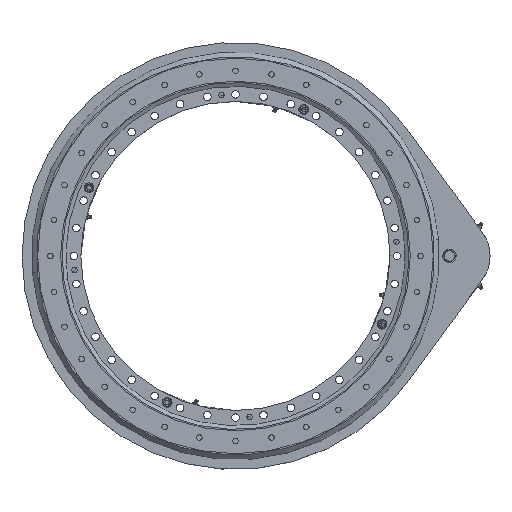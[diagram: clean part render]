
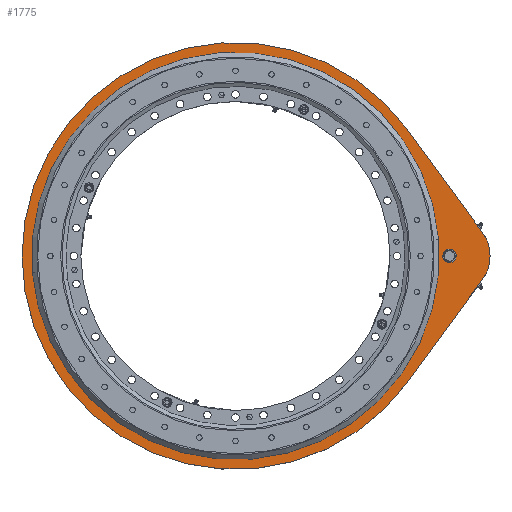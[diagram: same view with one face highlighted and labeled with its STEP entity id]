
A CAD part, top view. The second image highlights one B-rep face of the part: STEP entity #1775.
In plain terms, the highlighted planar face has unit normal (0, 0, 1).
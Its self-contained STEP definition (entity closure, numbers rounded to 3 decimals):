
#111 = DIRECTION ( 'NONE',  ( 1., 0., 0. ) ) ;
#293 = EDGE_CURVE ( 'NONE', #27408, #12091, #2461, .T. ) ;
#1008 = DIRECTION ( 'NONE',  ( -1., 0., 0. ) ) ;
#1614 = VERTEX_POINT ( 'NONE', #21198 ) ;
#1647 = EDGE_CURVE ( 'NONE', #6652, #25368, #10290, .T. ) ;
#1775 = ADVANCED_FACE ( 'NONE', ( #26782, #7114, #15846 ), #2504, .T. ) ;
#2461 = CIRCLE ( 'NONE', #16691, 373. ) ;
#2504 = PLANE ( 'NONE',  #8610 ) ;
#2748 = EDGE_CURVE ( 'NONE', #17085, #17570, #14805, .T. ) ;
#2806 = EDGE_CURVE ( 'NONE', #25368, #16297, #10714, .T. ) ;
#3073 = CIRCLE ( 'NONE', #10412, 373. ) ;
#3870 = EDGE_CURVE ( 'NONE', #12091, #27408, #3073, .T. ) ;
#4274 = CIRCLE ( 'NONE', #20305, 75. ) ;
#4479 = ORIENTED_EDGE ( 'NONE', *, *, #2806, .T. ) ;
#4496 = CIRCLE ( 'NONE', #18698, 10.5 ) ;
#4676 = DIRECTION ( 'NONE',  ( 0., 0., 1. ) ) ;
#5382 = VECTOR ( 'NONE', #21423, 1000. ) ;
#5641 = CARTESIAN_POINT ( 'NONE',  ( 330.07, 85.521, 797.5 ) ) ;
#5752 = ORIENTED_EDGE ( 'NONE', *, *, #1647, .T. ) ;
#6652 = VERTEX_POINT ( 'NONE', #23153 ) ;
#7114 = FACE_OUTER_BOUND ( 'NONE', #10948, .T. ) ;
#7665 = ORIENTED_EDGE ( 'NONE', *, *, #12495, .T. ) ;
#8090 = CARTESIAN_POINT ( 'NONE',  ( 276.262, -147.162, 797.5 ) ) ;
#8097 = DIRECTION ( 'NONE',  ( 1., 0., 0. ) ) ;
#8321 = DIRECTION ( 'NONE',  ( 0., 0., 1. ) ) ;
#8368 = CARTESIAN_POINT ( 'NONE',  ( -42.93, 85.521, 797.5 ) ) ;
#8610 = AXIS2_PLACEMENT_3D ( 'NONE', #18737, #27629, #8097 ) ;
#8651 = DIRECTION ( 'NONE',  ( 1., 0., 0. ) ) ;
#8905 = CIRCLE ( 'NONE', #12108, 10.5 ) ;
#9410 = ORIENTED_EDGE ( 'NONE', *, *, #23343, .T. ) ;
#10027 = CARTESIAN_POINT ( 'NONE',  ( 276.262, 318.204, 797.5 ) ) ;
#10290 = LINE ( 'NONE', #10027, #15809 ) ;
#10319 = DIRECTION ( 'NONE',  ( 1., 0., 0. ) ) ;
#10412 = AXIS2_PLACEMENT_3D ( 'NONE', #8368, #16710, #27628 ) ;
#10714 = CIRCLE ( 'NONE', #26794, 395. ) ;
#10948 = EDGE_LOOP ( 'NONE', ( #4479, #15897, #15802, #19115, #5752 ) ) ;
#11831 = DIRECTION ( 'NONE',  ( 1., 0., 0. ) ) ;
#12091 = VERTEX_POINT ( 'NONE', #17690 ) ;
#12108 = AXIS2_PLACEMENT_3D ( 'NONE', #16779, #27858, #28008 ) ;
#12495 = EDGE_CURVE ( 'NONE', #23423, #1614, #8905, .T. ) ;
#13841 = DIRECTION ( 'NONE',  ( 0., 0., 1. ) ) ;
#14805 = LINE ( 'NONE', #8090, #5382 ) ;
#15411 = CARTESIAN_POINT ( 'NONE',  ( 276.262, -147.162, 797.5 ) ) ;
#15447 = CARTESIAN_POINT ( 'NONE',  ( -42.93, 85.521, 797.5 ) ) ;
#15802 = ORIENTED_EDGE ( 'NONE', *, *, #2748, .T. ) ;
#15809 = VECTOR ( 'NONE', #27561, 1000. ) ;
#15846 = FACE_BOUND ( 'NONE', #26719, .T. ) ;
#15897 = ORIENTED_EDGE ( 'NONE', *, *, #15938, .T. ) ;
#15938 = EDGE_CURVE ( 'NONE', #16297, #17085, #25957, .T. ) ;
#16297 = VERTEX_POINT ( 'NONE', #23101 ) ;
#16691 = AXIS2_PLACEMENT_3D ( 'NONE', #18969, #8321, #10319 ) ;
#16710 = DIRECTION ( 'NONE',  ( 0., 0., 1. ) ) ;
#16779 = CARTESIAN_POINT ( 'NONE',  ( 353.07, 85.521, 797.5 ) ) ;
#17085 = VERTEX_POINT ( 'NONE', #15411 ) ;
#17570 = VERTEX_POINT ( 'NONE', #27325 ) ;
#17690 = CARTESIAN_POINT ( 'NONE',  ( -415.93, 85.521, 797.5 ) ) ;
#18252 = CARTESIAN_POINT ( 'NONE',  ( 276.262, 318.204, 797.5 ) ) ;
#18519 = CARTESIAN_POINT ( 'NONE',  ( 353.07, 85.521, 797.5 ) ) ;
#18698 = AXIS2_PLACEMENT_3D ( 'NONE', #18519, #22670, #1008 ) ;
#18737 = CARTESIAN_POINT ( 'NONE',  ( -42.93, 85.521, 797.5 ) ) ;
#18969 = CARTESIAN_POINT ( 'NONE',  ( -42.93, 85.521, 797.5 ) ) ;
#19082 = AXIS2_PLACEMENT_3D ( 'NONE', #15447, #4676, #111 ) ;
#19115 = ORIENTED_EDGE ( 'NONE', *, *, #24847, .T. ) ;
#20305 = AXIS2_PLACEMENT_3D ( 'NONE', #26804, #13841, #11831 ) ;
#21198 = CARTESIAN_POINT ( 'NONE',  ( 363.57, 85.521, 797.5 ) ) ;
#21263 = EDGE_LOOP ( 'NONE', ( #7665, #9410 ) ) ;
#21423 = DIRECTION ( 'NONE',  ( 0.589, 0.808, 0. ) ) ;
#21689 = DIRECTION ( 'NONE',  ( 0., 0., 1. ) ) ;
#22525 = ORIENTED_EDGE ( 'NONE', *, *, #293, .F. ) ;
#22670 = DIRECTION ( 'NONE',  ( 0., 0., -1. ) ) ;
#23101 = CARTESIAN_POINT ( 'NONE',  ( -437.93, 85.521, 797.5 ) ) ;
#23153 = CARTESIAN_POINT ( 'NONE',  ( 413.676, 129.701, 797.5 ) ) ;
#23343 = EDGE_CURVE ( 'NONE', #1614, #23423, #4496, .T. ) ;
#23423 = VERTEX_POINT ( 'NONE', #23824 ) ;
#23824 = CARTESIAN_POINT ( 'NONE',  ( 342.57, 85.521, 797.5 ) ) ;
#24847 = EDGE_CURVE ( 'NONE', #17570, #6652, #4274, .T. ) ;
#25368 = VERTEX_POINT ( 'NONE', #18252 ) ;
#25957 = CIRCLE ( 'NONE', #19082, 395. ) ;
#26043 = CARTESIAN_POINT ( 'NONE',  ( -42.93, 85.521, 797.5 ) ) ;
#26178 = ORIENTED_EDGE ( 'NONE', *, *, #3870, .F. ) ;
#26719 = EDGE_LOOP ( 'NONE', ( #22525, #26178 ) ) ;
#26782 = FACE_BOUND ( 'NONE', #21263, .T. ) ;
#26794 = AXIS2_PLACEMENT_3D ( 'NONE', #26043, #21689, #8651 ) ;
#26804 = CARTESIAN_POINT ( 'NONE',  ( 353.07, 85.521, 797.5 ) ) ;
#27325 = CARTESIAN_POINT ( 'NONE',  ( 413.676, 41.34, 797.5 ) ) ;
#27408 = VERTEX_POINT ( 'NONE', #5641 ) ;
#27561 = DIRECTION ( 'NONE',  ( -0.589, 0.808, 0. ) ) ;
#27628 = DIRECTION ( 'NONE',  ( 1., 0., 0. ) ) ;
#27629 = DIRECTION ( 'NONE',  ( 0., 0., 1. ) ) ;
#27858 = DIRECTION ( 'NONE',  ( 0., 0., -1. ) ) ;
#28008 = DIRECTION ( 'NONE',  ( -1., 0., 0. ) ) ;
